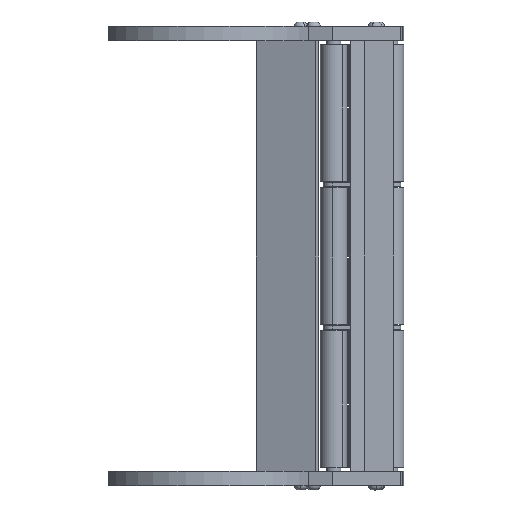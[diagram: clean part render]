
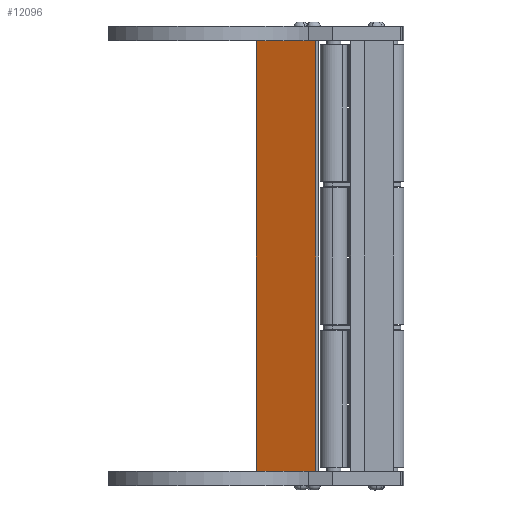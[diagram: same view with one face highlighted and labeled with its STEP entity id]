
A CAD part, front view. The second image highlights one B-rep face of the part: STEP entity #12096.
In plain terms, the highlighted planar face has unit normal (-0.342, -0.94, 0) as drawn and (0.342, -0.94, 0) by its records, which use the part's own axes.
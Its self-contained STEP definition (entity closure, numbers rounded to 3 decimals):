
#830 = DIRECTION ( 'NONE',  ( 0., 0., -1. ) ) ;
#1016 = LINE ( 'NONE', #5428, #18441 ) ;
#1125 = DIRECTION ( 'NONE',  ( 0., 0., -1. ) ) ;
#1277 = LINE ( 'NONE', #2697, #18330 ) ;
#1841 = VECTOR ( 'NONE', #1125, 1000. ) ;
#1898 = ORIENTED_EDGE ( 'NONE', *, *, #3442, .T. ) ;
#2429 = CARTESIAN_POINT ( 'NONE',  ( 35., 12.137, 240. ) ) ;
#2544 = ORIENTED_EDGE ( 'NONE', *, *, #12667, .F. ) ;
#2697 = CARTESIAN_POINT ( 'NONE',  ( 35., 12.137, 0. ) ) ;
#3048 = CARTESIAN_POINT ( 'NONE',  ( 35., 12.137, 0. ) ) ;
#3442 = EDGE_CURVE ( 'NONE', #10580, #18270, #13714, .T. ) ;
#3499 = FACE_OUTER_BOUND ( 'NONE', #15560, .T. ) ;
#4132 = LINE ( 'NONE', #2429, #1841 ) ;
#5428 = CARTESIAN_POINT ( 'NONE',  ( 1.655, 0., 240. ) ) ;
#6388 = ORIENTED_EDGE ( 'NONE', *, *, #13132, .T. ) ;
#6588 = DIRECTION ( 'NONE',  ( 0.94, 0.342, 0. ) ) ;
#6918 = CARTESIAN_POINT ( 'NONE',  ( 35., 12.137, 240. ) ) ;
#7210 = ORIENTED_EDGE ( 'NONE', *, *, #7244, .F. ) ;
#7244 = EDGE_CURVE ( 'NONE', #10580, #11258, #1016, .T. ) ;
#8038 = DIRECTION ( 'NONE',  ( -0.94, -0.342, 0. ) ) ;
#8088 = DIRECTION ( 'NONE',  ( 0.94, 0.342, 0. ) ) ;
#8620 = VERTEX_POINT ( 'NONE', #3048 ) ;
#9297 = CARTESIAN_POINT ( 'NONE',  ( 1.655, 0., 240. ) ) ;
#10580 = VERTEX_POINT ( 'NONE', #9297 ) ;
#10923 = CARTESIAN_POINT ( 'NONE',  ( 35., 12.137, 240. ) ) ;
#11258 = VERTEX_POINT ( 'NONE', #6918 ) ;
#12096 = ADVANCED_FACE ( 'NONE', ( #3499 ), #18054, .F. ) ;
#12110 = CARTESIAN_POINT ( 'NONE',  ( 1.655, 0., 240. ) ) ;
#12437 = DIRECTION ( 'NONE',  ( -0.342, 0.94, 0. ) ) ;
#12667 = EDGE_CURVE ( 'NONE', #11258, #8620, #4132, .T. ) ;
#13132 = EDGE_CURVE ( 'NONE', #18270, #8620, #1277, .T. ) ;
#13362 = CARTESIAN_POINT ( 'NONE',  ( 1.655, 0., 0. ) ) ;
#13714 = LINE ( 'NONE', #12110, #18219 ) ;
#15433 = AXIS2_PLACEMENT_3D ( 'NONE', #10923, #12437, #8038 ) ;
#15560 = EDGE_LOOP ( 'NONE', ( #6388, #2544, #7210, #1898 ) ) ;
#18054 = PLANE ( 'NONE',  #15433 ) ;
#18219 = VECTOR ( 'NONE', #830, 1000. ) ;
#18270 = VERTEX_POINT ( 'NONE', #13362 ) ;
#18330 = VECTOR ( 'NONE', #8088, 1000. ) ;
#18441 = VECTOR ( 'NONE', #6588, 1000. ) ;
